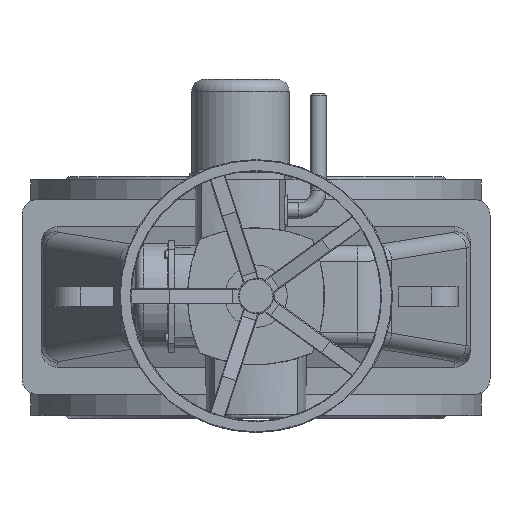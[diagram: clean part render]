
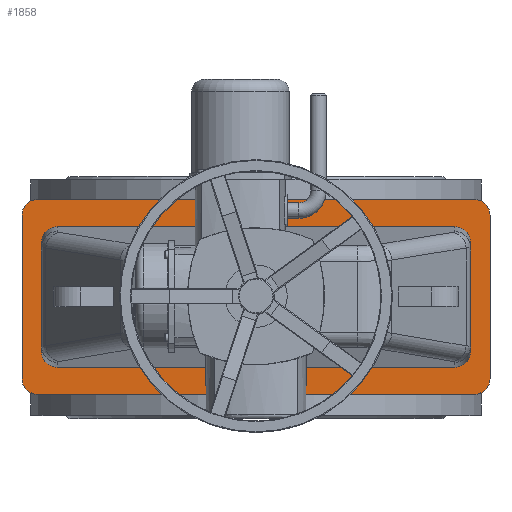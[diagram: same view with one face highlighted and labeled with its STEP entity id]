
A CAD part, top view. The second image highlights one B-rep face of the part: STEP entity #1858.
In plain terms, the highlighted planar face has unit normal (0, 0, 1).
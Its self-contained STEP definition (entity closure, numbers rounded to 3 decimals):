
#1858=ADVANCED_FACE('',(#8226,#8228),#8230,.T.);
#8226=FACE_BOUND('',#8227,.T.);
#8227=EDGE_LOOP('',(#13058,#13059,#13060,#13061,#13062,#13063,#13064,#13065));
#8228=FACE_BOUND('',#8229,.T.);
#8229=EDGE_LOOP('',(#13066,#13067,#13068,#13069,#13070,#13071,#13072,#13073));
#8230=PLANE('',#8231);
#8231=AXIS2_PLACEMENT_3D('',#8232,#8233,#8234);
#8232=CARTESIAN_POINT('',(0.,0.,466.));
#8233=DIRECTION('',(0.,-0.,1.));
#8234=DIRECTION('',(0.,1.,0.));
#13058=ORIENTED_EDGE('',*,*,#15012,.F.);
#13059=ORIENTED_EDGE('',*,*,#15025,.T.);
#13060=ORIENTED_EDGE('',*,*,#15024,.F.);
#13061=ORIENTED_EDGE('',*,*,#15022,.T.);
#13062=ORIENTED_EDGE('',*,*,#15020,.F.);
#13063=ORIENTED_EDGE('',*,*,#15018,.T.);
#13064=ORIENTED_EDGE('',*,*,#15016,.F.);
#13065=ORIENTED_EDGE('',*,*,#15013,.T.);
#13066=ORIENTED_EDGE('',*,*,#15026,.F.);
#13067=ORIENTED_EDGE('',*,*,#15027,.F.);
#13068=ORIENTED_EDGE('',*,*,#15028,.F.);
#13069=ORIENTED_EDGE('',*,*,#15029,.F.);
#13070=ORIENTED_EDGE('',*,*,#15030,.F.);
#13071=ORIENTED_EDGE('',*,*,#15031,.F.);
#13072=ORIENTED_EDGE('',*,*,#15032,.F.);
#13073=ORIENTED_EDGE('',*,*,#15033,.F.);
#15012=EDGE_CURVE('',#16553,#16551,#16555,.F.);
#15013=EDGE_CURVE('',#16556,#16551,#16557,.T.);
#15016=EDGE_CURVE('',#16556,#16559,#16561,.F.);
#15018=EDGE_CURVE('',#16562,#16559,#16564,.T.);
#15020=EDGE_CURVE('',#16562,#16565,#16567,.F.);
#15022=EDGE_CURVE('',#16568,#16565,#16570,.T.);
#15024=EDGE_CURVE('',#16568,#16571,#16573,.F.);
#15025=EDGE_CURVE('',#16553,#16571,#16574,.T.);
#15026=EDGE_CURVE('',#16575,#16576,#16577,.F.);
#15027=EDGE_CURVE('',#16578,#16575,#16579,.T.);
#15028=EDGE_CURVE('',#16580,#16578,#16581,.T.);
#15029=EDGE_CURVE('',#16582,#16580,#16583,.T.);
#15030=EDGE_CURVE('',#16584,#16582,#16585,.F.);
#15031=EDGE_CURVE('',#16586,#16584,#16587,.T.);
#15032=EDGE_CURVE('',#16588,#16586,#16589,.T.);
#15033=EDGE_CURVE('',#16576,#16588,#16590,.T.);
#16551=VERTEX_POINT('',#20543);
#16553=VERTEX_POINT('',#20547);
#16555=CIRCLE('',#20551,20.);
#16556=VERTEX_POINT('',#20555);
#16557=LINE('',#20556,#20557);
#16559=VERTEX_POINT('',#20562);
#16561=CIRCLE('',#20566,20.);
#16562=VERTEX_POINT('',#20570);
#16564=LINE('',#20574,#20575);
#16565=VERTEX_POINT('',#20577);
#16567=CIRCLE('',#20581,20.);
#16568=VERTEX_POINT('',#20585);
#16570=LINE('',#20589,#20590);
#16571=VERTEX_POINT('',#20592);
#16573=CIRCLE('',#20596,20.);
#16574=LINE('',#20600,#20601);
#16575=VERTEX_POINT('',#20603);
#16576=VERTEX_POINT('',#20604);
#16577=(BOUNDED_CURVE()B_SPLINE_CURVE(3,
(#20605,#20606,#20607,#20608),
.UNSPECIFIED.,.F.,.F.)B_SPLINE_CURVE_WITH_KNOTS((4,4),
(0.,1.),
.UNSPECIFIED.)CURVE()GEOMETRIC_REPRESENTATION_ITEM()RATIONAL_B_SPLINE_CURVE((1.,
0.805,0.805,1.))REPRESENTATION_ITEM(''));
#16578=VERTEX_POINT('',#20609);
#16579=LINE('',#20610,#20611);
#16580=VERTEX_POINT('',#20613);
#16581=(BOUNDED_CURVE()B_SPLINE_CURVE(3,
(#20614,#20615,#20616,#20617),
.UNSPECIFIED.,.F.,.F.)B_SPLINE_CURVE_WITH_KNOTS((4,4),
(0.,1.),
.UNSPECIFIED.)CURVE()GEOMETRIC_REPRESENTATION_ITEM()RATIONAL_B_SPLINE_CURVE((1.,
0.805,0.805,1.))REPRESENTATION_ITEM(''));
#16582=VERTEX_POINT('',#20618);
#16583=LINE('',#20619,#20620);
#16584=VERTEX_POINT('',#20622);
#16585=(BOUNDED_CURVE()B_SPLINE_CURVE(3,
(#20623,#20624,#20625,#20626),
.UNSPECIFIED.,.F.,.F.)B_SPLINE_CURVE_WITH_KNOTS((4,4),
(0.,1.),
.UNSPECIFIED.)CURVE()GEOMETRIC_REPRESENTATION_ITEM()RATIONAL_B_SPLINE_CURVE((1.,
0.805,0.805,1.))REPRESENTATION_ITEM(''));
#16586=VERTEX_POINT('',#20627);
#16587=LINE('',#20628,#20629);
#16588=VERTEX_POINT('',#20631);
#16589=(BOUNDED_CURVE()B_SPLINE_CURVE(3,
(#20632,#20633,#20634,#20635),
.UNSPECIFIED.,.F.,.F.)B_SPLINE_CURVE_WITH_KNOTS((4,4),
(0.,1.),
.UNSPECIFIED.)CURVE()GEOMETRIC_REPRESENTATION_ITEM()RATIONAL_B_SPLINE_CURVE((1.,
0.805,0.805,1.))REPRESENTATION_ITEM(''));
#16590=LINE('',#20636,#20637);
#20543=CARTESIAN_POINT('',(-300.,-105.,466.));
#20547=CARTESIAN_POINT('',(-280.,-125.,466.));
#20551=AXIS2_PLACEMENT_3D('',#20552,#20553,#20554);
#20552=CARTESIAN_POINT('',(-280.,-105.,466.));
#20553=DIRECTION('',(0.,-0.,1.));
#20554=DIRECTION('',(-1.,0.,0.));
#20555=CARTESIAN_POINT('',(-300.,105.,466.));
#20556=CARTESIAN_POINT('',(-300.,105.,466.));
#20557=VECTOR('',#20558,1.);
#20558=DIRECTION('',(0.,-1.,0.));
#20562=CARTESIAN_POINT('',(-280.,125.,466.));
#20566=AXIS2_PLACEMENT_3D('',#20567,#20568,#20569);
#20567=CARTESIAN_POINT('',(-280.,105.,466.));
#20568=DIRECTION('',(0.,-0.,1.));
#20569=DIRECTION('',(0.,1.,0.));
#20570=CARTESIAN_POINT('',(280.,125.,466.));
#20574=CARTESIAN_POINT('',(280.,125.,466.));
#20575=VECTOR('',#20576,1.);
#20576=DIRECTION('',(-1.,0.,0.));
#20577=CARTESIAN_POINT('',(300.,105.,466.));
#20581=AXIS2_PLACEMENT_3D('',#20582,#20583,#20584);
#20582=CARTESIAN_POINT('',(280.,105.,466.));
#20583=DIRECTION('',(0.,-0.,1.));
#20584=DIRECTION('',(1.,0.,0.));
#20585=CARTESIAN_POINT('',(300.,-105.,466.));
#20589=CARTESIAN_POINT('',(300.,-105.,466.));
#20590=VECTOR('',#20591,1.);
#20591=DIRECTION('',(0.,1.,0.));
#20592=CARTESIAN_POINT('',(280.,-125.,466.));
#20596=AXIS2_PLACEMENT_3D('',#20597,#20598,#20599);
#20597=CARTESIAN_POINT('',(280.,-105.,466.));
#20598=DIRECTION('',(0.,-0.,1.));
#20599=DIRECTION('',(0.,-1.,0.));
#20600=CARTESIAN_POINT('',(-280.,-125.,466.));
#20601=VECTOR('',#20602,1.);
#20602=DIRECTION('',(1.,0.,0.));
#20603=CARTESIAN_POINT('',(255.,-90.,466.));
#20604=CARTESIAN_POINT('',(275.,-69.924,466.));
#20605=CARTESIAN_POINT('',(275.,-69.924,466.));
#20606=CARTESIAN_POINT('',(275.,-81.684,466.));
#20607=CARTESIAN_POINT('',(266.716,-90.,466.));
#20608=CARTESIAN_POINT('',(255.,-90.,466.));
#20609=CARTESIAN_POINT('',(-255.,-90.,466.));
#20610=CARTESIAN_POINT('',(-255.,-90.,466.));
#20611=VECTOR('',#20612,1.);
#20612=DIRECTION('',(1.,0.,0.));
#20613=CARTESIAN_POINT('',(-275.,-69.924,466.));
#20614=CARTESIAN_POINT('',(-275.,-69.924,466.));
#20615=CARTESIAN_POINT('',(-275.,-81.684,466.));
#20616=CARTESIAN_POINT('',(-266.716,-90.,466.));
#20617=CARTESIAN_POINT('',(-255.,-90.,466.));
#20618=CARTESIAN_POINT('',(-275.,69.924,466.));
#20619=CARTESIAN_POINT('',(-275.,69.924,466.));
#20620=VECTOR('',#20621,1.);
#20621=DIRECTION('',(0.,-1.,0.));
#20622=CARTESIAN_POINT('',(-255.,90.,466.));
#20623=CARTESIAN_POINT('',(-275.,69.924,466.));
#20624=CARTESIAN_POINT('',(-275.,81.684,466.));
#20625=CARTESIAN_POINT('',(-266.716,90.,466.));
#20626=CARTESIAN_POINT('',(-255.,90.,466.));
#20627=CARTESIAN_POINT('',(255.,90.,466.));
#20628=CARTESIAN_POINT('',(255.,90.,466.));
#20629=VECTOR('',#20630,1.);
#20630=DIRECTION('',(-1.,0.,0.));
#20631=CARTESIAN_POINT('',(275.,69.924,466.));
#20632=CARTESIAN_POINT('',(275.,69.924,466.));
#20633=CARTESIAN_POINT('',(275.,81.684,466.));
#20634=CARTESIAN_POINT('',(266.716,90.,466.));
#20635=CARTESIAN_POINT('',(255.,90.,466.));
#20636=CARTESIAN_POINT('',(275.,-69.924,466.));
#20637=VECTOR('',#20638,1.);
#20638=DIRECTION('',(0.,1.,0.));
